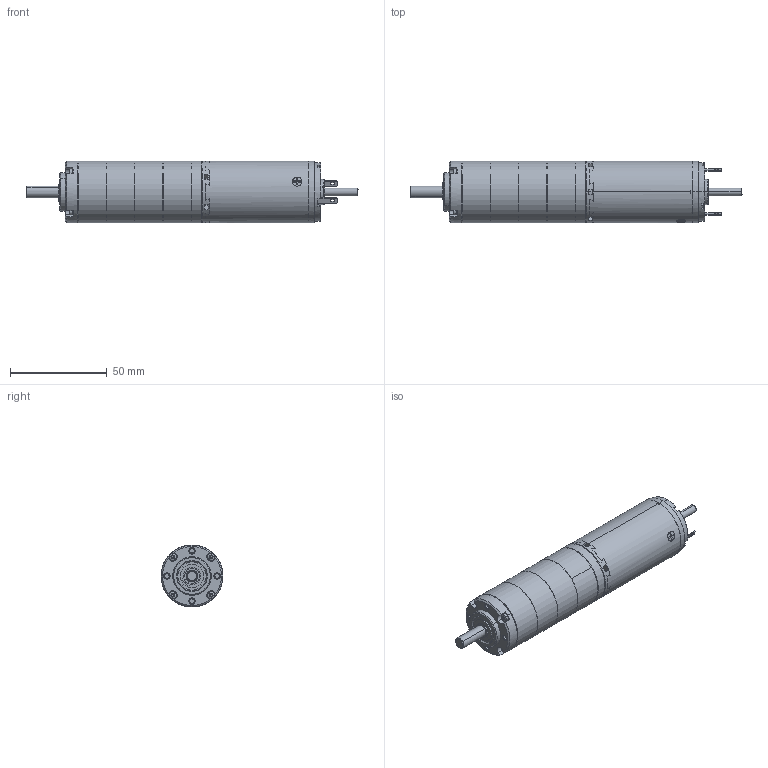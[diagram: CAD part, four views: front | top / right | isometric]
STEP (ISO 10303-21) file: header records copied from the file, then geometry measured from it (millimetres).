
FILE_DESCRIPTION (( 'STEP AP214' ), '1' );
FILE_NAME ('AMAX32GHP+PM32-4etages_2016.STEP', '2016-12-19T16:10:11', ( 'maxon motor' ), ( 'maxon motor' ), 'SwSTEP 2.0', 'SolidWorks 2015', '' );
FILE_SCHEMA (( 'AUTOMOTIVE_DESIGN' ));
Length unit declared in the file: millimetre
Products named in the file (20): DIN998_PS_6X12X0_5_2; D625-619_6-2Z_2; D472_15X1_2; 8101913_LAGERFLANSCH_2; P8209_8100249_ZAHNKRANZ_1ST_2; A-max32-236651; PM32 pour Amax32_4 etages; AMAX32GHP+PM32-4etages_2016; SCHRAUBEN_1232149; 8015677_MOTORFLANSCH; Cotﾚ moteur^PM32 pour Amax32; 8002481_MOTORRITZEL_Z17; 8011610_ANLAUFSCHEIBE_G_1ST_2; Cotﾚ sortie^PM32 pour Amax32; FLACHKOPFSCHRAUBE_M2X21_PRECOTE_2; GK235_POS42_DICHTRING_2; DIN471_SR_06X00_7_2; GK545_POS23_4_ABTRIEB_LK4_KPL_2; GK235_POS13_LAGERBOLZEN_2; GK545_POS22_ABTRIEB_ROHTEIL_AF0_2
Assembly tree (35 placements, depth 5):
  AMAX32GHP+PM32-4etages_2016
    A-max32-236651
    PM32 pour Amax32_4 etages
      P8209_8100249_ZAHNKRANZ_1ST_2  x4
      Cotﾚ sortie^PM32 pour Amax32
        8101913_LAGERFLANSCH_2
        D472_15X1_2
        D625-619_6-2Z_2  x2
        DIN998_PS_6X12X0_5_2  x2
        GK545_POS23_4_ABTRIEB_LK4_KPL_2
          GK545_POS22_ABTRIEB_ROHTEIL_AF0_2
          GK235_POS13_LAGERBOLZEN_2  x3
        DIN471_SR_06X00_7_2
        GK235_POS42_DICHTRING_2
        FLACHKOPFSCHRAUBE_M2X21_PRECOTE_2  x4
      Cotﾚ moteur^PM32 pour Amax32
        GK235_POS42_DICHTRING_2
        8011610_ANLAUFSCHEIBE_G_1ST_2
        8002481_MOTORRITZEL_Z17
      GK235_POS42_DICHTRING_2  x3
      8015677_MOTORFLANSCH
      SCHRAUBEN_1232149  x3
Bounding box: 171.7 x 32 x 32 mm (x, y, z)
Volume: 24602.9 mm3; surface area: 47002 mm2
Topology: 25 solids, 57 shells, 2376 faces, 6499 edges, 4261 vertices
Faces by surface type: cylinder 1139, plane 888, cone 180, torus 111, bspline 50, sphere 8
Entity records: 67621 total; most frequent: CARTESIAN_POINT 18418, ORIENTED_EDGE 8073, DIRECTION 8066, EDGE_CURVE 4058, AXIS2_PLACEMENT_3D 3080, VERTEX_POINT 2656, LINE 1906, VECTOR 1906
